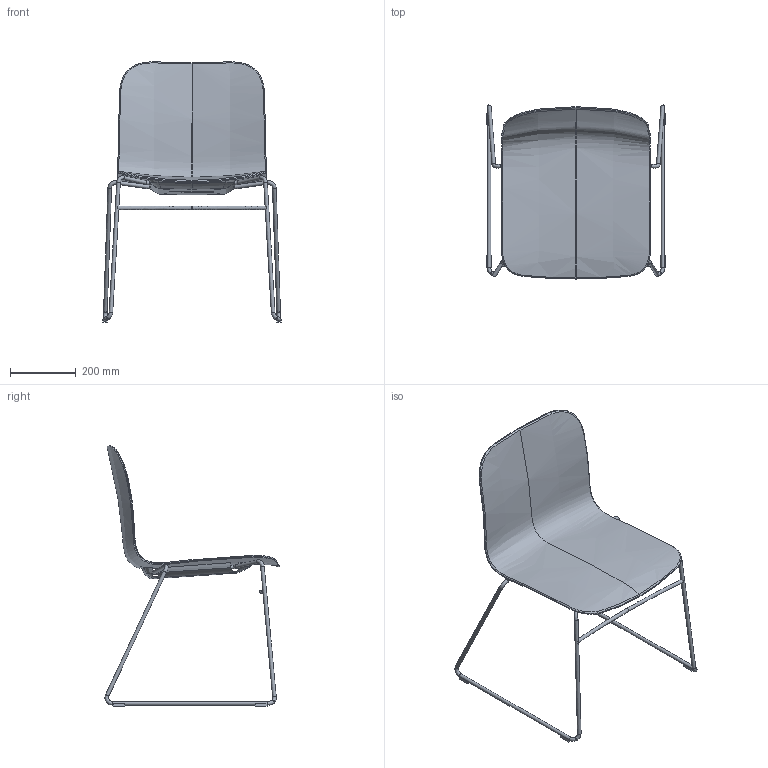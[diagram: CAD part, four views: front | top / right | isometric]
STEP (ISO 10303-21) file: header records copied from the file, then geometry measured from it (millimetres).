
FILE_DESCRIPTION(/* description */ (''),/* implementation_level */ '2;1');
FILE_NAME(/* name */ 'Lambda LA4001-070',/* time_stamp */ '2024-03-04T14:42:52+01:00',/* author */ (''),/* organization */ (''),/* preprocessor_version */ 'ST-DEVELOPER v16.5',/* originating_system */ 'Rhino 7.35',/* authorisation */ '');
FILE_SCHEMA (('CONFIG_CONTROL_DESIGN'));
Length unit declared in the file: millimetre
Products named in the file (1): Document
Bounding box: 543 x 529.05 x 790.34 mm (x, y, z)
Volume: 22149.6 mm3; surface area: 999584.6 mm2
Topology: 8 solids, 17 shells, 926 faces, 2431 edges, 1612 vertices
Faces by surface type: plane 450, bspline 364, cylinder 112
Full cylindrical faces by diameter (mm): 11 x18, 22 x4
Entity records: 75422 total; most frequent: CARTESIAN_POINT 59197, ORIENTED_EDGE 4802, EDGE_CURVE 2428, B_SPLINE_CURVE_WITH_KNOTS 2295, VERTEX_POINT 1606, EDGE_LOOP 1011, ADVANCED_FACE 926, FACE_OUTER_BOUND 926
